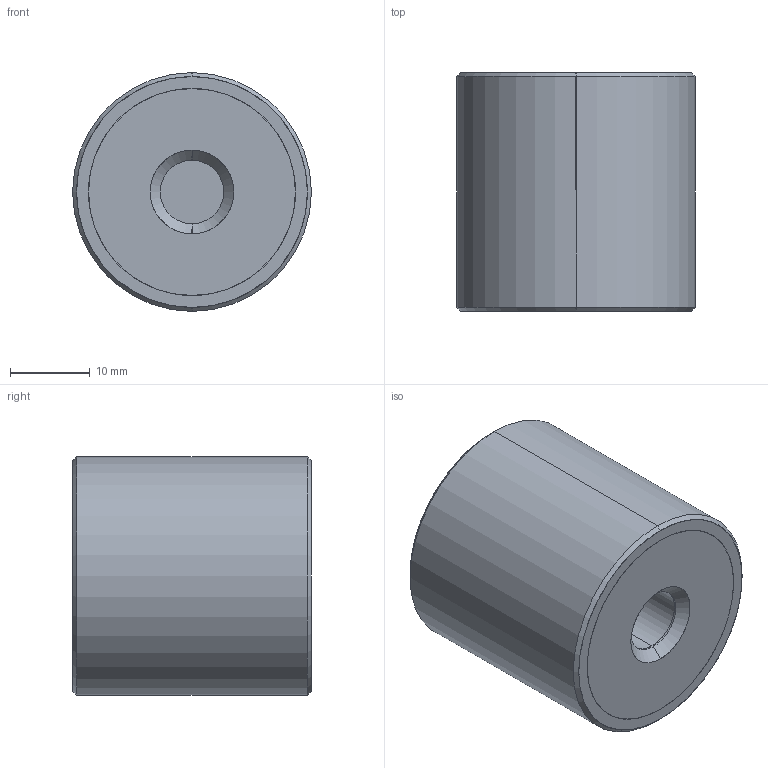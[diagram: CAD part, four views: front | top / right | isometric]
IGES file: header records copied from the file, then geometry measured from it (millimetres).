
Start section: SolidWorks IGES file using analytic representation for surfaces
Global section: file name: E:\WIXROYD 20180701\61080_v2\61080_v2_20180409_IGES\61080.W0303.igs; native system: SolidWorks 2017; preprocessor: SolidWorks 2017; author: liam_; date: 180716.214415; units: millimetre
Bounding box: 30 x 30 x 30 mm (x, y, z)
Surface area: 6967.4 mm2 (no closed solid volume)
Topology: 0 solids, 0 shells, 36 faces, 744 edges, 744 vertices
Faces by surface type: revolution 26, bspline 10
